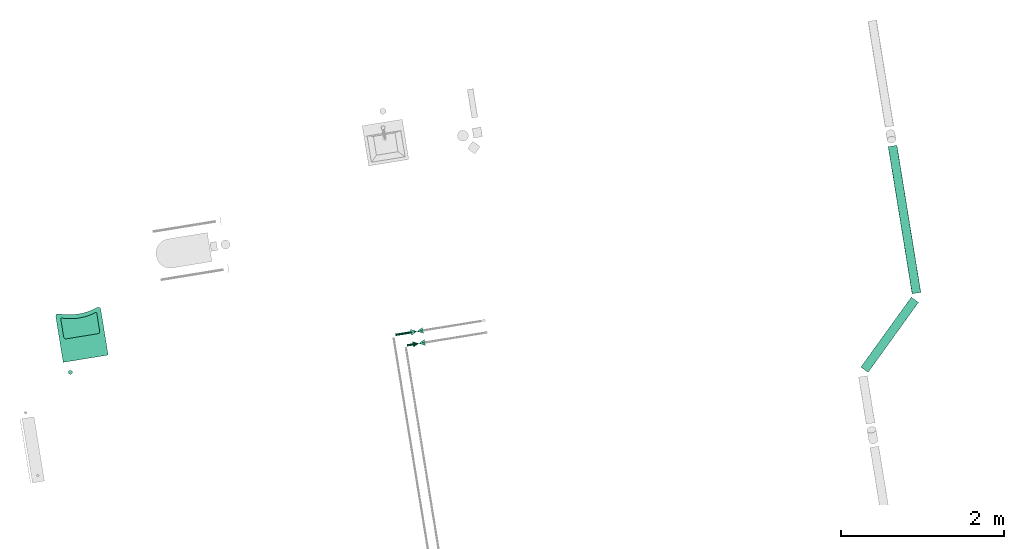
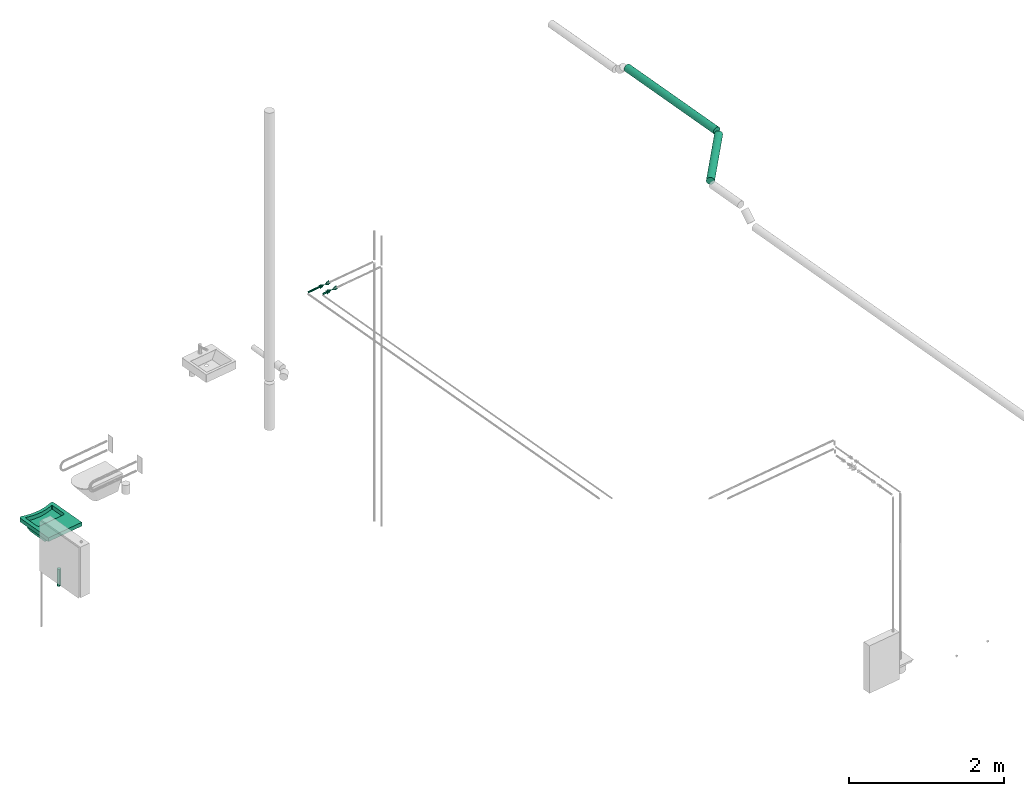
# One storey, part 4 of 10: 5 flow segments, 2 flow controllers, 1 flow terminal.
"""IFC2X3 building model written with IfcOpenShell, lengths in millimetres."""

import ifcopenshell
import ifcopenshell.guid

model = None  # the IFC model being written
_history = None  # IfcOwnerHistory: only IFC2X3 demands one
_inside = {}  # id of a spatial element -> (the spatial element, [elements in it])
_under = {}  # id of a project, library or spatial element -> (it, [spatial elements below it])
_declared = {}  # id of a project -> (the project, [libraries it declares])
_typed = {}  # id of a type object -> (the type object, [elements of that type])
_made_of = {}  # id of a material, layer set ... -> (it, [elements and type objects made of it])


def new_model(schema):
    """Start an empty IFC model of exactly this schema.

    Asked for "IFC4X3", IfcOpenShell would pick the latest addendum, in which some entities
    have other attributes; the version numbers below select the first issue.
    IFC2X3 requires an IfcOwnerHistory on every rooted entity: one is made here for all.
    """
    global model, _history
    if schema == "IFC4X3":
        model = ifcopenshell.file(schema_version=(4, 3, 0, 0))
    else:
        model = ifcopenshell.file(schema=schema)
    _inside.clear()
    _under.clear()
    _declared.clear()
    _typed.clear()
    _made_of.clear()
    _history = None
    if model.schema == "IFC2X3":
        org = make("IfcOrganization", Name="unknown")
        user = make(
            "IfcPersonAndOrganization",
            ThePerson=make("IfcPerson", FamilyName="unknown"),
            TheOrganization=org,
        )
        app = make(
            "IfcApplication",
            ApplicationDeveloper=org,
            Version="unknown",
            ApplicationFullName="unknown",
            ApplicationIdentifier="unknown",
        )
        _history = make(
            "IfcOwnerHistory",
            OwningUser=user,
            OwningApplication=app,
            ChangeAction="ADDED",
            CreationDate=0,
        )
    return model


def make(cls, **values):
    """One entity of the class cls with the attributes given. An attribute that is None is left unset."""
    return model.create_entity(
        cls, **{name: value for name, value in values.items() if value is not None}
    )


def entity(cls, *values):
    """Any entity or typed value of the class cls, its attributes in the order of the schema. None: left unset."""
    e = model.create_entity(cls)
    for i, value in enumerate(values):
        if value is not None:
            e[i] = value
    return e


def rooted(cls, **values):
    """An entity with a GlobalId (a new one), such as an element, a storey or a relation."""
    return make(cls, GlobalId=ifcopenshell.guid.new(), OwnerHistory=_history, **values)


def si_unit(unit_type, name, prefix=None):
    """IfcSIUnit, for example si_unit("LENGTHUNIT", "METRE", prefix="MILLI")."""
    return make("IfcSIUnit", UnitType=unit_type, Prefix=prefix, Name=name)


def converted_unit(unit_type, name, factor, base, dimensions=None, offset=None):
    """IfcConversionBasedUnit, such as the inch: factor (a typed value) times the base unit."""
    return make(
        "IfcConversionBasedUnit"
        if offset is None
        else "IfcConversionBasedUnitWithOffset",
        ConversionOffset=offset,
        Dimensions=None
        if dimensions is None
        else entity("IfcDimensionalExponents", *dimensions),
        UnitType=unit_type,
        Name=name,
        ConversionFactor=make(
            "IfcMeasureWithUnit", ValueComponent=factor, UnitComponent=base
        ),
    )


def derived_unit(unit_type, elements):
    """IfcDerivedUnit: a product of units, each with its exponent."""
    return make(
        "IfcDerivedUnit",
        Elements=[
            make("IfcDerivedUnitElement", Unit=unit, Exponent=power)
            for unit, power in elements
        ],
        UnitType=unit_type,
    )


def assignment(units):
    """IfcUnitAssignment: the units of a project."""
    return None if units is None else make("IfcUnitAssignment", Units=units)


def point(xyz):
    """IfcCartesianPoint."""
    return None if xyz is None else make("IfcCartesianPoint", Coordinates=xyz)


def direction(xyz):
    """IfcDirection."""
    return None if xyz is None else make("IfcDirection", DirectionRatios=xyz)


def frame(location, z_axis=None, x_axis=None):
    """IfcAxis2Placement3D, a coordinate frame: its origin and axes. An axis left out is left unset."""
    return make(
        "IfcAxis2Placement3D",
        Location=point(location),
        Axis=direction(z_axis),
        RefDirection=direction(x_axis),
    )


def frame_2d(location, x_axis=None):
    """IfcAxis2Placement2D, a coordinate frame in the plane: its origin and x axis."""
    return make(
        "IfcAxis2Placement2D", Location=point(location), RefDirection=direction(x_axis)
    )


def origin():
    """The frame at (0, 0, 0) with its axes left unset."""
    return frame((0.0, 0.0, 0.0))


def origin_with_axes():
    """The frame at (0, 0, 0) with the z axis (0, 0, 1) and the x axis (1, 0, 0) written out."""
    return frame((0.0, 0.0, 0.0), z_axis=(0.0, 0.0, 1.0), x_axis=(1.0, 0.0, 0.0))


def origin_2d_with_axis():
    """The frame at (0, 0) in the plane with the x axis (1, 0) written out."""
    return frame_2d((0.0, 0.0), x_axis=(1.0, 0.0))


def place(relative_to, where):
    """IfcLocalPlacement: puts the frame where relative to a parent placement (None: the world)."""
    return make(
        "IfcLocalPlacement", PlacementRelTo=relative_to, RelativePlacement=where
    )


def context(
    kind, dimensions, precision=None, world=None, true_north=None, identifier=None
):
    """IfcGeometricRepresentationContext, for example the 3D "Model" context."""
    return make(
        "IfcGeometricRepresentationContext",
        ContextIdentifier=identifier,
        ContextType=kind,
        CoordinateSpaceDimension=dimensions,
        Precision=precision,
        WorldCoordinateSystem=world,
        TrueNorth=true_north,
    )


def subcontext(parent, identifier, kind, view, scale=None):
    """IfcGeometricRepresentationSubContext, for example "Body" below "Model"."""
    return make(
        "IfcGeometricRepresentationSubContext",
        ContextIdentifier=identifier,
        ContextType=kind,
        ParentContext=parent,
        TargetScale=scale,
        TargetView=view,
    )


def project(units=None, contexts=None):
    """IfcProject with its units and contexts."""
    return rooted(
        "IfcProject",
        Name="project",
        RepresentationContexts=contexts,
        UnitsInContext=assignment(units),
    )


def spatial(cls, under=None, at=None, **own):
    """A site, building, storey or space (cls), placed at a placement, below another one or the project."""
    s = rooted(cls, ObjectPlacement=at, **own)
    if under is not None:
        _under.setdefault(under.id(), (under, []))[1].append(s)
    return s


def polyline(points):
    """IfcPolyline through the points."""
    return make("IfcPolyline", Points=[point(p) for p in points])


def circle_curve(where, radius):
    """IfcCircle in the frame where."""
    return make("IfcCircle", Position=where, Radius=radius)


def parameter(value):
    """IfcParameterValue: where a trimmed curve begins or ends, as a parameter of its basis curve."""
    return model.create_entity("IfcParameterValue", value)


def trimmed(basis, trim1, trim2, sense, master):
    """IfcTrimmedCurve: the piece of a basis curve between two trims."""
    return make(
        "IfcTrimmedCurve",
        BasisCurve=basis,
        Trim1=trim1,
        Trim2=trim2,
        SenseAgreement=sense,
        MasterRepresentation=master,
    )


def segment(curve, same_sense, transition):
    """IfcCompositeCurveSegment."""
    return make(
        "IfcCompositeCurveSegment",
        Transition=transition,
        SameSense=same_sense,
        ParentCurve=curve,
    )


def composite_curve(segments, self_intersect=None):
    """IfcCompositeCurve: segments joined end to end."""
    return make("IfcCompositeCurve", Segments=segments, SelfIntersect=self_intersect)


def profile(cls, at=None, kind="AREA", **sizes):
    """A parametric profile (cls). Its sizes go by their IFC names, for example OverallWidth=200.0."""
    return make(cls, ProfileType=kind, Position=at, **sizes)


def circle(**sizes):
    """IfcCircleProfileDef."""
    return profile("IfcCircleProfileDef", **sizes)


def outline(outer, holes=None, kind="AREA"):
    """IfcArbitraryClosedProfileDef: a profile drawn as a closed curve; with holes, ...WithVoids."""
    if holes is None:
        return make("IfcArbitraryClosedProfileDef", ProfileType=kind, OuterCurve=outer)
    return make(
        "IfcArbitraryProfileDefWithVoids",
        ProfileType=kind,
        OuterCurve=outer,
        InnerCurves=holes,
    )


def extrude(swept, where, along, depth):
    """IfcExtrudedAreaSolid: the profile swept, set in the frame where, extruded along a direction by depth."""
    return make(
        "IfcExtrudedAreaSolid",
        SweptArea=swept,
        Position=where,
        ExtrudedDirection=direction(along),
        Depth=depth,
    )


def shape(context_of_items, identifier, shape_type, items):
    """IfcShapeRepresentation: the items that make up one representation, for example the "Body"."""
    return make(
        "IfcShapeRepresentation",
        ContextOfItems=context_of_items,
        RepresentationIdentifier=identifier,
        RepresentationType=shape_type,
        Items=items,
    )


def source(mapping_origin, context_of_items, identifier, shape_type, items):
    """IfcRepresentationMap: a shape defined once, which mapped items show again and again."""
    return make(
        "IfcRepresentationMap",
        MappingOrigin=mapping_origin,
        MappedRepresentation=shape(context_of_items, identifier, shape_type, items),
    )


def transform(
    local_origin,
    x_axis=None,
    y_axis=None,
    z_axis=None,
    scale=None,
    scale2=None,
    scale3=None,
    uniform=True,
):
    """IfcCartesianTransformationOperator3D, or its non-uniform kind. x_axis, y_axis, z_axis: its Axis1, 2, 3."""
    if uniform:
        return make(
            "IfcCartesianTransformationOperator3D",
            Axis1=direction(x_axis),
            Axis2=direction(y_axis),
            LocalOrigin=point(local_origin),
            Scale=scale,
            Axis3=direction(z_axis),
        )
    return make(
        "IfcCartesianTransformationOperator3DnonUniform",
        Axis1=direction(x_axis),
        Axis2=direction(y_axis),
        LocalOrigin=point(local_origin),
        Scale=scale,
        Axis3=direction(z_axis),
        Scale2=scale2,
        Scale3=scale3,
    )


def mapped(mapping_source, mapping_target):
    """IfcMappedItem: shows the shape of a source again, moved by a transform."""
    return make(
        "IfcMappedItem", MappingSource=mapping_source, MappingTarget=mapping_target
    )


def material(Name=None, Category=None):
    """IfcMaterial."""
    return make("IfcMaterial", Name=Name, Category=Category)


def made_of(thing, what):
    """Note that an element or type object is made of a material, layer set ...; save() writes the relation."""
    if what is not None:
        _made_of.setdefault(what.id(), (what, []))[1].append(thing)
    return thing


def type_object(cls, material=None, **own):
    """A type object (cls), such as IfcWallType, which elements share."""
    return made_of(rooted(cls, **own), material)


def element(
    cls,
    number,
    at=None,
    inside=None,
    cuts=None,
    type_object=None,
    material=None,
    context=None,
    identifier="Body",
    shape_type=None,
    held_by="IfcProductDefinitionShape",
    body=None,
    shapes=None,
    **own,
):
    """One element of the class cls, such as IfcWall. Its Tag is "e" and its number.

    at: its placement. inside: the storey or other place that contains it. cuts: it is an
    opening in that element (IfcRelVoidsElement). A single representation is given by context,
    identifier, shape_type and body (its items); several are given by shapes. held_by: the class
    of the entity that holds the representations. save() writes the other relations.
    """
    e = rooted(cls, Tag="e%d" % number, ObjectPlacement=at, **own)
    if body is not None:
        shapes = [shape(context, identifier, shape_type, body)]
    if shapes is not None:
        e.Representation = make(held_by, Representations=shapes)
    if inside is not None:
        _inside.setdefault(inside.id(), (inside, []))[1].append(e)
    if cuts is not None:
        rooted(
            "IfcRelVoidsElement", RelatingBuildingElement=cuts, RelatedOpeningElement=e
        )
    if type_object is not None:
        _typed.setdefault(type_object.id(), (type_object, []))[1].append(e)
    return made_of(e, material)


def aggregate(whole, parts):
    """IfcRelAggregates: a whole, such as a stair, and the parts it consists of."""
    return rooted("IfcRelAggregates", RelatingObject=whole, RelatedObjects=parts)


def save(model, path):
    """Write the relations noted so far, then the file.

    IfcRelAggregates (storeys below a building ...), IfcRelContainedInSpatialStructure (elements
    in a storey), IfcRelDefinesByType, IfcRelAssociatesMaterial and IfcRelDeclares: one each for
    every whole, place, type object, material and project.
    """
    for whole, parts in _under.values():
        aggregate(whole, parts)
    for where, things in _inside.values():
        rooted(
            "IfcRelContainedInSpatialStructure",
            RelatedElements=things,
            RelatingStructure=where,
        )
    for kind, things in _typed.values():
        rooted("IfcRelDefinesByType", RelatedObjects=things, RelatingType=kind)
    for what, things in _made_of.values():
        rooted("IfcRelAssociatesMaterial", RelatedObjects=things, RelatingMaterial=what)
    for by, libraries in _declared.values():
        rooted("IfcRelDeclares", RelatingContext=by, RelatedDefinitions=libraries)
    model.write(path)


model = new_model("IFC2X3")

# Units and contexts
model_context = context("Model", 3, precision=0.01, world=origin(), true_north=direction((6.12323399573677e-17, 1.0)))
plan_context = context("Plan", 3, precision=1e-05, world=origin_with_axes())
body_context = subcontext(model_context, "Body", "Model", "MODEL_VIEW")
ifc_project = project(units=[converted_unit("PLANEANGLEUNIT", "DEGREE", entity("IfcPositiveLengthMeasure", 0.0174532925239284), si_unit("PLANEANGLEUNIT", "RADIAN"), dimensions=[0, 0, 0, 0, 0, 0, 0]), si_unit("AREAUNIT", "SQUARE_METRE"), si_unit("LENGTHUNIT", "METRE", prefix="MILLI"), si_unit("MASSUNIT", "GRAM", prefix="KILO"), si_unit("POWERUNIT", "WATT"), si_unit("PRESSUREUNIT", "PASCAL", prefix="KILO"), si_unit("FORCEUNIT", "NEWTON", prefix="KILO"), si_unit("ELECTRICVOLTAGEUNIT", "VOLT"), si_unit("ELECTRICCURRENTUNIT", "AMPERE"), si_unit("THERMODYNAMICTEMPERATUREUNIT", "DEGREE_CELSIUS"), si_unit("TIMEUNIT", "SECOND"), si_unit("VOLUMEUNIT", "CUBIC_METRE"), derived_unit("LINEARVELOCITYUNIT", [(si_unit("LENGTHUNIT", "METRE"), 1), (si_unit("TIMEUNIT", "SECOND"), -1)]), derived_unit("VOLUMETRICFLOWRATEUNIT", [(si_unit("VOLUMEUNIT", "CUBIC_METRE"), 1), (si_unit("TIMEUNIT", "SECOND"), -1)]), derived_unit("THERMALTRANSMITTANCEUNIT", [(si_unit("POWERUNIT", "WATT"), 1), (si_unit("THERMODYNAMICTEMPERATUREUNIT", "KELVIN"), -1), (si_unit("AREAUNIT", "SQUARE_METRE"), -1)]), derived_unit("SOUNDPRESSUREUNIT", [(si_unit("PRESSUREUNIT", "PASCAL"), 1)])], contexts=[model_context, plan_context])

# Site, building, storey
site_placement = place(None, frame((-0.000710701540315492, 0.00438415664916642, 0.0), z_axis=(0.0, 0.0, 1.0), x_axis=(-0.160236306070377, 0.987078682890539, 0.0)))
site = spatial("IfcSite", under=ifc_project, at=site_placement, Name="Default", CompositionType="ELEMENT")
building_placement = place(site_placement, origin_with_axes())
building = spatial("IfcBuilding", under=site, at=building_placement, CompositionType="ELEMENT")
storey_placement = place(building_placement, frame((0.0, 0.0, 50999.9999999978), z_axis=(0.0, 0.0, 1.0), x_axis=(1.0, 0.0, 0.0)))
storey = spatial("IfcBuildingStorey", under=building, at=storey_placement, Name="Nivå D", CompositionType="ELEMENT", Elevation=50999.9999999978)

# Flow controllers
ifc_material_1 = material(Name="<Unnamed>")
valve_type_1 = type_object("IfcValveType", Name="STENGEVENTIL - MANUELL - 4 - SM:STENGEVENTIL - MANUELL - 20 - SM01T", PredefinedType="NOTDEFINED", material=ifc_material_1)
shared_shape_1 = source(origin(), body_context, "Body", "SweptSolid", [
    extrude(outline(polyline([(-39.1311896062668, -22.3606797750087), (44.7213595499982, -22.3606797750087), (-5.59016994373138, 44.7213595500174), (-39.1311896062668, -22.3606797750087)])), frame((50.0, -1.07349053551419, 0.0), z_axis=(0.0, 1.0, 0.0), x_axis=(-0.894427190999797, 0.0, 0.447213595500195)), (0.0, 0.0, 1.0), 2.13989335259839),
    extrude(outline(polyline([(-37.5000000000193, -25.0), (37.5000000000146, -25.0), (0.0, 50.0), (-37.5000000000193, -25.0)])), frame((-50.0, -1.07349053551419, 0.0), z_axis=(0.0, 1.0, 0.0), x_axis=(0.0, 0.0, 1.0)), (0.0, 0.0, 1.0), 2.13989335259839),
    extrude(outline(polyline([(-37.5000000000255, -25.0), (37.5000000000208, -25.0), (0.0, 50.0), (-37.5000000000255, -25.0)])), frame((50.0, 0.0, -1.0664028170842), z_axis=(0.0, 0.0, 1.0), x_axis=(0.0, 1.0, 0.0)), (0.0, 0.0, 1.0), 2.13989335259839),
    extrude(outline(polyline([(-39.1311896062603, -22.360679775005), (44.7213595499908, -22.360679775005), (-5.59016994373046, 44.72135955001), (-39.1311896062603, -22.360679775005)])), frame((-50.0, 0.0, -1.0664028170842), z_axis=(0.0, 0.0, 1.0), x_axis=(0.894427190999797, 0.447213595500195, 0.0)), (0.0, 0.0, 1.0), 2.13989335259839),
])
flow_controller_1_placement = place(storey_placement, frame((776992.383502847, -593842.480498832, 3100.0), z_axis=(0.0, 0.0, -1.0), x_axis=(0.0, -1.0, 0.0)))
element("IfcFlowController", 1, at=flow_controller_1_placement, inside=storey, type_object=valve_type_1, material=ifc_material_1, Name="STENGEVENTIL - MANUELL - 4 - SM:STENGEVENTIL - MANUELL - 20 - SM01T", ObjectType="STENGEVENTIL - MANUELL - 4 - SM:STENGEVENTIL - MANUELL - 20 - SM01T", context=body_context, shape_type="MappedRepresentation", body=[
    mapped(shared_shape_1, transform((0.0, 0.0, 0.0), scale=1.0)),
])
valve_type_2 = type_object("IfcValveType", Name="STENGEVENTIL - MANUELL - 4 - SM:STENGEVENTIL - MANUELL - 25 - SM01T", PredefinedType="NOTDEFINED", material=ifc_material_1)
flow_controller_2_placement = place(storey_placement, frame((777142.372679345, -593842.480498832, 3100.0), z_axis=(0.0, 0.0, -1.0), x_axis=(0.0, -1.0, 0.0)))
element("IfcFlowController", 2, at=flow_controller_2_placement, inside=storey, type_object=valve_type_2, material=ifc_material_1, Name="STENGEVENTIL - MANUELL - 4 - SM:STENGEVENTIL - MANUELL - 25 - SM01T", ObjectType="STENGEVENTIL - MANUELL - 4 - SM:STENGEVENTIL - MANUELL - 25 - SM01T", context=body_context, shape_type="MappedRepresentation", body=[
    mapped(shared_shape_1, transform((0.0, 0.0, 0.0), scale=1.0)),
])

# Flow terminal
ifc_material_2 = material(Name="NSW - white våtrom")
distribution_element_type = type_object("IfcDistributionElementType", Name="HC VASK -  - NY:HC VASK -  - NY005T", material=ifc_material_2)
shared_shape_2 = source(origin(), body_context, "Body", "SweptSolid", [
    extrude(outline(composite_curve([segment(trimmed(circle_curve(frame_2d((138.800944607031, -117.965646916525), x_axis=(1.0, 0.0)), 161.965646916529), [parameter(26.3802635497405)], [parameter(90.0000000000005)], True, "PARAMETER"), True, "CONTINUOUS"), segment(polyline([(138.800944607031, 44.0), (-114.233740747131, 44.0)]), True, "CONTINUOUS"), segment(trimmed(circle_curve(frame_2d((-114.233740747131, 4.0), x_axis=(1.0, 0.0)), 40.0), [parameter(90.0000000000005)], [parameter(180.0)], True, "PARAMETER"), True, "CONTINUOUS"), segment(polyline([(-154.233740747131, 4.0), (-154.233740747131, -46.0)]), True, "CONTINUOUS"), segment(polyline([(-154.233740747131, -46.0), (283.900277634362, -46.0)]), True, "CONTINUOUS")], self_intersect=False)), frame((-234.0, 78.6153887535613, 44.0), z_axis=(1.0, 0.0, 0.0), x_axis=(0.0, -1.0, 0.0)), (0.0, 0.0, 1.0), 467.999999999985),
    extrude(outline(composite_curve([segment(polyline([(-280.0, -336.744766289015), (280.0, -336.744766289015)]), True, "CONTINUOUS"), segment(polyline([(280.0, -336.744766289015), (280.0, -158.08706559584)]), True, "CONTINUOUS"), segment(polyline([(280.0, -158.08706559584), (280.0, 233.2552337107)]), True, "CONTINUOUS"), segment(trimmed(circle_curve(frame_2d((250.0, 233.2552337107), x_axis=(1.0, 0.0)), 30.0), [parameter(0.0)], [parameter(109.257564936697)], True, "PARAMETER"), True, "CONTINUOUS"), segment(trimmed(circle_curve(frame_2d((0.0, 948.84173102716), x_axis=(1.0, 0.0)), 728.000023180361), [parameter(250.742435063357)], [parameter(289.257564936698)], True, "PARAMETER"), False, "CONTINUOUS"), segment(trimmed(circle_curve(frame_2d((-250.0, 233.255233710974), x_axis=(1.0, 0.0)), 30.0), [parameter(70.7424350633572)], [parameter(180.0)], True, "PARAMETER"), True, "CONTINUOUS"), segment(polyline([(-280.0, 233.255233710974), (-280.0, -158.087065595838)]), True, "CONTINUOUS"), segment(polyline([(-280.0, -158.087065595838), (-280.0, -336.744766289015)]), True, "CONTINUOUS")], self_intersect=False), holes=[composite_curve([segment(polyline([(196.0, -57.2870655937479), (-196.0, -57.2870655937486)]), True, "CONTINUOUS"), segment(trimmed(circle_curve(frame_2d((-196.0, -29.2870655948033), x_axis=(1.0, 0.0)), 27.9999999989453), [parameter(180.0)], [parameter(270.0)], True, "PARAMETER"), False, "CONTINUOUS"), segment(polyline([(-224.0, -29.2870655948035), (-224.0, 194.599479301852)]), True, "CONTINUOUS"), segment(trimmed(circle_curve(frame_2d((-214.0, 194.599479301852), x_axis=(1.0, 0.0)), 10.0), [parameter(71.7126409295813)], [parameter(180.0)], True, "PARAMETER"), False, "CONTINUOUS"), segment(trimmed(circle_curve(frame_2d((-3.86634323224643e-09, 842.154906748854), x_axis=(1.0, 0.0)), 672.000023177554), [parameter(251.71264092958)], [parameter(288.287359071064)], True, "PARAMETER"), True, "CONTINUOUS"), segment(trimmed(circle_curve(frame_2d((214.0, 194.599479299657), x_axis=(1.0, 0.0)), 10.0), [parameter(4.07110999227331e-13)], [parameter(108.287359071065)], True, "PARAMETER"), False, "CONTINUOUS"), segment(polyline([(224.0, 194.599479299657), (224.0, -29.2870655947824)]), True, "CONTINUOUS"), segment(trimmed(circle_curve(frame_2d((196.0, -29.2870655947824), x_axis=(1.0, 0.0)), 27.9999999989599), [parameter(270.0)], [parameter(4.07110999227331e-13)], True, "PARAMETER"), False, "CONTINUOUS")], self_intersect=False)]), frame((0.0, -0.685409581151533, 90.0), z_axis=(0.0, 0.0, 1.0), x_axis=(-1.0, 0.0, 0.0)), (0.0, 0.0, 1.0), 60.0000000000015),
])
flow_terminal_placement = place(storey_placement, frame((777798.679000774, -589772.48173883, 700.0), z_axis=(0.0, 0.0, 1.0), x_axis=(0.0, 1.0, 0.0)))
element("IfcFlowTerminal", 3, at=flow_terminal_placement, inside=storey, type_object=distribution_element_type, material=ifc_material_2, Name="HC VASK -  - NY:HC VASK -  - NY005T", ObjectType="HC VASK -  - NY:HC VASK -  - NY005T", context=body_context, shape_type="MappedRepresentation", body=[
    mapped(shared_shape_2, transform((0.0, 0.0, 0.0), scale=1.0)),
])

# Flow segments
pipe_segment_type_1 = type_object("IfcPipeSegmentType", Name="Pipe Types:PP avløpsrør", PredefinedType="NOTDEFINED")
flow_segment_1_placement = place(storey_placement, origin_with_axes())
element("IfcFlowSegment", 4, at=flow_segment_1_placement, inside=storey, type_object=pipe_segment_type_1, Name="Pipe Types:PP avløpsrør", ObjectType="Pipe Types:PP avløpsrør", context=body_context, shape_type="SweptSolid", body=[
    extrude(circle(Radius=25.0, at=origin_2d_with_axis()), frame((777328.713006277, -589559.15871903, 142.500000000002)), (0.0, 0.0, 1.0), 270.240382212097),
])
pipe_segment_type_2 = type_object("IfcPipeSegmentType", Name="Pipe Types:Kobberrør", PredefinedType="NOTDEFINED")
flow_segment_2_placement = place(storey_placement, origin_with_axes())
element("IfcFlowSegment", 5, at=flow_segment_2_placement, inside=storey, type_object=pipe_segment_type_2, Name="Pipe Types:Kobberrør", ObjectType="Pipe Types:Kobberrør", context=body_context, shape_type="SweptSolid", body=[
    extrude(circle(Radius=11.0, at=origin_2d_with_axis()), frame((776992.383502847, -593811.480498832, 3100.0), z_axis=(0.0, 1.0, 0.0), x_axis=(1.0, 0.0, 0.0)), (0.0, 0.0, 1.0), 113.412881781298),
])
flow_segment_3_placement = place(storey_placement, origin_with_axes())
element("IfcFlowSegment", 6, at=flow_segment_3_placement, inside=storey, type_object=pipe_segment_type_2, Name="Pipe Types:Kobberrør", ObjectType="Pipe Types:Kobberrør", context=body_context, shape_type="SweptSolid", body=[
    extrude(circle(Radius=14.0, at=origin_2d_with_axis()), frame((777142.372679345, -593805.980498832, 3100.0), z_axis=(0.0, 1.0, 0.0), x_axis=(1.0, 0.0, 0.0)), (0.0, 0.0, 1.0), 231.912881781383),
])
pipe_segment_type_3 = type_object("IfcPipeSegmentType", Name="Pipe Types:Rustfrie stålrør", PredefinedType="NOTDEFINED")
flow_segment_4_placement = place(storey_placement, origin_with_axes())
element("IfcFlowSegment", 7, at=flow_segment_4_placement, inside=storey, type_object=pipe_segment_type_3, Name="Pipe Types:Rustfrie stålrør", ObjectType="Pipe Types:Rustfrie stålrør", context=body_context, shape_type="SweptSolid", body=[
    extrude(circle(Radius=55.0000000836, at=origin_2d_with_axis()), frame((775796.71826613, -599192.997687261, 3100.0), z_axis=(0.707106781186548, -0.707106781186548, 0.0), x_axis=(0.707106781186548, 0.707106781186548, 0.0)), (0.0, 0.0, 1.0), 1058.50602959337),
])
flow_segment_5_placement = place(storey_placement, origin_with_axes())
element("IfcFlowSegment", 8, at=flow_segment_5_placement, inside=storey, type_object=pipe_segment_type_3, Name="Pipe Types:Rustfrie stålrør", ObjectType="Pipe Types:Rustfrie stålrør", context=body_context, shape_type="SweptSolid", body=[
    extrude(circle(Radius=55.0000000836, at=origin_2d_with_axis()), frame((776622.976803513, -599973.692732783, 3100.0), z_axis=(1.0, 0.0, 0.0), x_axis=(0.0, -1.0, 0.0)), (0.0, 0.0, 1.0), 1831.02825266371),
])

save(model, "model.ifc")
